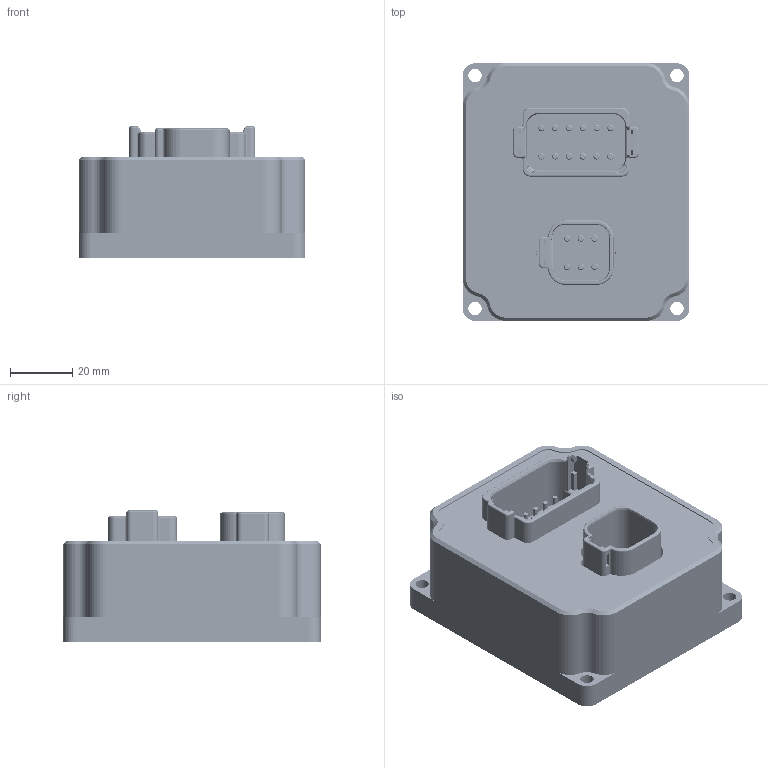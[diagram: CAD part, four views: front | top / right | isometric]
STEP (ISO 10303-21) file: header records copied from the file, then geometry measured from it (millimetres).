
FILE_DESCRIPTION (( 'STEP AP214' ), '1' );
FILE_NAME ('ATSI-AI6-100.STEP', '2019-09-10T16:08:12', ( '' ), ( '' ), 'SwSTEP 2.0', 'SolidWorks 2014', '' );
FILE_SCHEMA (( 'AUTOMOTIVE_DESIGN' ));
Length unit declared in the file: millimetre
Products named in the file (151): ABM7_(20MHZ); sot23; User_Library-LQFP64_Grid_0_5; SW3dPS-0603_SMD_Capacitor; User_Library-RES_1609-0603; User_Library-CAP_TANT_7343-40; res_0603; User_Library-SOIC-8-1; cap-22.86_16x6.5; User_Library-SON8_3mm; tssop-14; Board_4ChannelAnalog_1A0; User_Library-RES_2013-0805; User_Library-0ZCG-0_90mmPTC1812X0_5MM; User_Library-SOD-523F; Part1^AIOC-AI4-100; User_Library-DO-214AB(SMC); Part2^AIOC-AI4-100; User_Library-DO-214AC(SMA); box; User_Library-PhotocouplerSMD; Part3^AIOC-AI4-100; hdr-1x16t_2_32x2; ATSI-AI6-100; hdr-1x6t_2_12x2; User_Library-DO-214AA_SMB; AIOC-AI4-100; Part4^AIOC-AI4-100; c-dt15-6p-99-3d; SW3dPS-1206_SMD_Capacitor; c-dt15-12pa-99-3d; MTMM-106-15-T-S-100; User_Library-PCC-M0754M; _MTMM-106-15-T-S-100_body; _MTMM-106-15-T-S-100_pins; MTMM-116-15-T-S-100; _MTMM-116-15-T-S-100_body; _MTMM-116-15-T-S-100_pins; 4ChannelAnalog_1A0-from diptrace
Assembly tree (116 placements, depth 4):
  sot23
  User_Library-LQFP64_Grid_0_5
  SW3dPS-0603_SMD_Capacitor
  User_Library-RES_1609-0603
  res_0603
Bounding box: 73 x 83 x 42.24 mm (x, y, z)
Volume: 121082.7 mm3; surface area: 90372.1 mm2
Topology: 390 solids, 390 shells, 13612 faces, 33072 edges, 20310 vertices
Faces by surface type: plane 7226, bspline 2941, cylinder 2651, torus 522, cone 272
Entity records: 326416 total; most frequent: CARTESIAN_POINT 72043, ORIENTED_EDGE 35054, DIRECTION 34151, EDGE_CURVE 17527, VECTOR 11973, LINE 11973, AXIS2_PLACEMENT_3D 11089, VERTEX_POINT 10518
